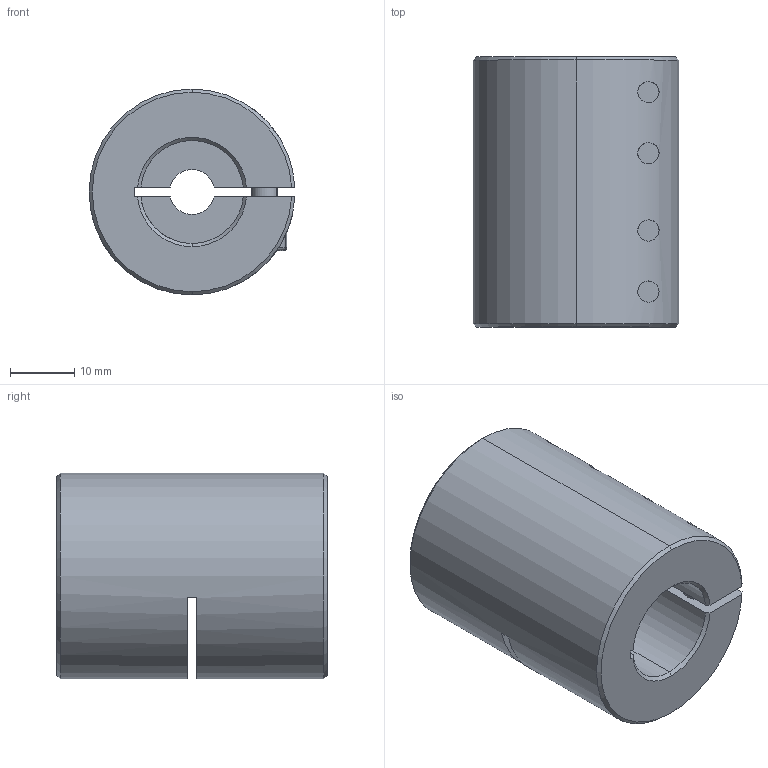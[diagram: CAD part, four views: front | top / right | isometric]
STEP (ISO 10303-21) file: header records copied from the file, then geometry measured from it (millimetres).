
FILE_DESCRIPTION (( 'STEP AP203' ), '1' );
FILE_NAME ('LL-B-D32L42-7-16.STEP', '2021-11-05T07:42:24', ( '' ), ( '' ), 'SwSTEP 2.0', 'SolidWorks 2018', '' );
FILE_SCHEMA (( 'CONFIG_CONTROL_DESIGN' ));
Length unit declared in the file: millimetre
Products named in the file (1): LL-B-D32L42-7-16
Bounding box: 31.98 x 42 x 32 mm (x, y, z)
Volume: 26297.5 mm3; surface area: 10340.5 mm2
Topology: 1 solids, 1 shells, 192 faces, 489 edges, 307 vertices
Faces by surface type: plane 88, cylinder 76, cone 20, torus 8
Entity records: 6343 total; most frequent: CARTESIAN_POINT 1553, DIRECTION 1032, ORIENTED_EDGE 962, EDGE_CURVE 481, AXIS2_PLACEMENT_3D 402, VERTEX_POINT 307, LINE 228, VECTOR 228
